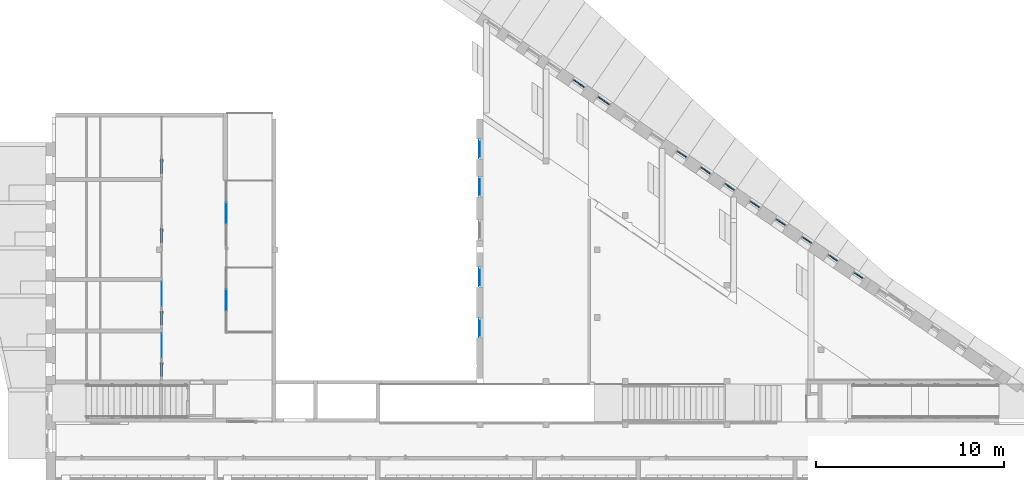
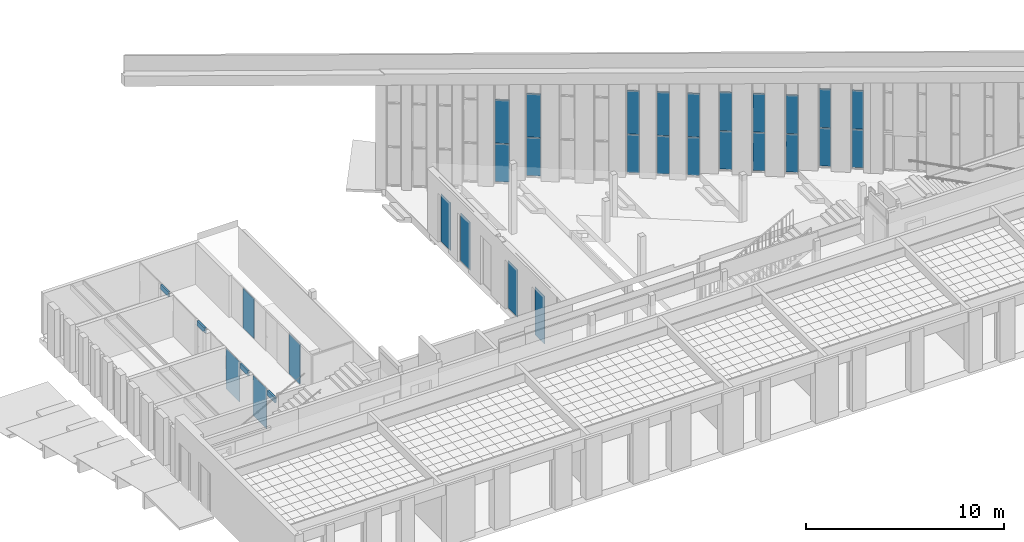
# One storey, part 21 of 79: 32 plates, 19 elements without a shape of their own.
"""IFC2X3 building model written with IfcOpenShell, lengths in millimetres."""

from ifc_helpers import new_model, entity, si_unit, converted_unit, derived_unit, money_unit, direction, frame, origin_with_axes, place, context, subcontext, project, spatial, faceted_brep, source, transform, mapped, material, material_list, type_object, element, aggregate, save


model = new_model("IFC2X3")

# Units and contexts
model_context = context("Model", 3, precision=0.01, world=origin_with_axes(), true_north=direction((0.0, 1.0)))
body_context = subcontext(model_context, "Body", "Model", "MODEL_VIEW")
ifc_project = project(units=[si_unit("LENGTHUNIT", "METRE", prefix="MILLI"), si_unit("AREAUNIT", "SQUARE_METRE"), si_unit("VOLUMEUNIT", "CUBIC_METRE"), converted_unit("PLANEANGLEUNIT", "DEGREE", entity("IfcPlaneAngleMeasure", 0.0174532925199), si_unit("PLANEANGLEUNIT", "RADIAN"), dimensions=[0, 0, 0, 0, 0, 0, 0]), si_unit("SOLIDANGLEUNIT", "STERADIAN"), money_unit("EUR"), converted_unit("TIMEUNIT", "Year", entity("IfcTimeMeasure", 31556926.0), si_unit("TIMEUNIT", "SECOND"), dimensions=[0, 0, 1, 0, 0, 0, 0]), si_unit("MASSUNIT", "GRAM", prefix="KILO"), si_unit("THERMODYNAMICTEMPERATUREUNIT", "DEGREE_CELSIUS"), si_unit("LUMINOUSINTENSITYUNIT", "LUMEN"), si_unit("ENERGYUNIT", "JOULE", prefix="MEGA"), derived_unit("THERMALCONDUCTANCEUNIT", [(si_unit("POWERUNIT", "WATT"), 1), (si_unit("LENGTHUNIT", "METRE"), -1), (si_unit("THERMODYNAMICTEMPERATUREUNIT", "KELVIN"), -1)]), derived_unit("SPECIFICHEATCAPACITYUNIT", [(si_unit("ENERGYUNIT", "JOULE"), 1), (si_unit("MASSUNIT", "GRAM", prefix="KILO"), -1), (si_unit("THERMODYNAMICTEMPERATUREUNIT", "KELVIN"), -1)]), derived_unit("MASSDENSITYUNIT", [(si_unit("MASSUNIT", "GRAM", prefix="KILO"), 1), (si_unit("VOLUMEUNIT", "CUBIC_METRE"), -1)])], contexts=[model_context])

# Site, building, storey
site_placement = place(None, origin_with_axes())
site = spatial("IfcSite", under=ifc_project, at=site_placement, Name="L.Koidula tn 11b", CompositionType="ELEMENT")
building_placement = place(site_placement, origin_with_axes())
building = spatial("IfcBuilding", under=site, at=building_placement, Name="Rakvere Riigigümnaasium", CompositionType="ELEMENT")
storey_placement = place(building_placement, frame((0.0, 0.0, 3720.0), z_axis=(0.0, 0.0, 1.0), x_axis=(1.0, 0.0, 0.0)))
storey = spatial("IfcBuildingStorey", under=building, at=storey_placement, Name="2.korrus +3,72", CompositionType="ELEMENT", Elevation=3720.0)

# Curtain wall, plate
curtain_wall_type = type_object("IfcCurtainWallType", Name="Curtain Wall Type", PredefinedType="NOTDEFINED")
curtain_wall_1_placement = place(storey_placement, frame((68763.037451, 29315.3232528, -465.000107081), z_axis=(0.0, 0.0, 1.0), x_axis=(1.0, 0.0, 0.0)))
curtain_wall_1 = element("IfcCurtainWall", 1, at=curtain_wall_1_placement, inside=storey, type_object=curtain_wall_type, Name="KLF-06-13")
ifc_material_1 = material(Name="Klaaspakett 3x")
plate_type_1 = type_object("IfcPlateType", Name="Distinct Panel 626 x 2351 x 54", PredefinedType="CURTAIN_PANEL")
shared_shape_1 = source(origin_with_axes(), body_context, "Body", "Brep", [
    faceted_brep([(-682.999957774, 2388.00017106, -27.0), (-682.999957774, 2388.00017106, 27.0), (-57.0000202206, 2388.00017106, 27.0), (-57.0000202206, 2388.00017106, -27.0), (-682.999957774, 37.0000026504, -27.0), (-682.999957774, 37.0000026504, 27.0), (-56.9999486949, 37.0000026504, 27.0), (-56.9999486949, 37.0000026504, -27.0)], [[[0, 1, 2, 3]], [[4, 5, 1, 0]], [[1, 5, 6, 2]], [[3, 2, 6, 7]], [[0, 3, 7, 4]], [[7, 6, 5, 4]]]),
])
plate_1_placement = place(curtain_wall_1_placement, frame((-7.21069994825e-05, 4.94565313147e-05, 1200.00008596), z_axis=(0.0, 0.0, 1.0), x_axis=(-0.824666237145, 0.565619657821, 0.0)))
plate_1 = element("IfcPlate", 2, at=plate_1_placement, type_object=plate_type_1, material=ifc_material_1, Name="KLF-06-13-Klaasid", ObjectType="CURTAIN_PANEL", context=body_context, shape_type="MappedRepresentation", body=[
    mapped(shared_shape_1, transform((369.999973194, 0.0, -1200.00008596), x_axis=(1.0, 0.0, 0.0), y_axis=(0.0, 0.0, 1.0), z_axis=(0.0, -1.0, 0.0))),
])

curtain_wall_2_placement = place(storey_placement, frame((70025.1098687, 28449.7063598, -465.0), z_axis=(0.0, 0.0, 1.0), x_axis=(1.0, 0.0, 0.0)))
curtain_wall_2 = element("IfcCurtainWall", 3, at=curtain_wall_2_placement, inside=storey, type_object=curtain_wall_type, Name="KLF-06-12")
plate_2_placement = place(curtain_wall_2_placement, frame((-9.94032234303e-05, 6.81783944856e-05, 1200.00003242), z_axis=(0.0, 0.0, 1.0), x_axis=(-0.824666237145, 0.565619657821, 0.0)))
plate_2 = element("IfcPlate", 4, at=plate_2_placement, type_object=plate_type_1, material=ifc_material_1, Name="KLF-06-12-Klaasid", ObjectType="CURTAIN_PANEL", context=body_context, shape_type="MappedRepresentation", body=[
    mapped(shared_shape_1, transform((369.99988812, 0.0, -1200.00003242), x_axis=(1.0, 0.0, 0.0), y_axis=(0.0, 0.0, 1.0), z_axis=(0.0, -1.0, 0.0))),
])

curtain_wall_3_placement = place(storey_placement, frame((71295.0958138, 27578.652128, -465.0), z_axis=(0.0, 0.0, 1.0), x_axis=(1.0, 0.0, 0.0)))
curtain_wall_3 = element("IfcCurtainWall", 5, at=curtain_wall_3_placement, inside=storey, type_object=curtain_wall_type, Name="KLF-06-11")
plate_3_placement = place(curtain_wall_3_placement, frame((-6.52157865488e-05, 4.47300152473e-05, 1200.00003242), z_axis=(0.0, 0.0, 1.0), x_axis=(-0.824666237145, 0.565619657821, 0.0)))
plate_3 = element("IfcPlate", 6, at=plate_3_placement, type_object=plate_type_1, material=ifc_material_1, Name="KLF-06-11-Klaasid", ObjectType="CURTAIN_PANEL", context=body_context, shape_type="MappedRepresentation", body=[
    mapped(shared_shape_1, transform((369.999855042, 0.0, -1200.00003242), x_axis=(1.0, 0.0, 0.0), y_axis=(0.0, 0.0, 1.0), z_axis=(0.0, -1.0, 0.0))),
])

curtain_wall_4_placement = place(storey_placement, frame((72639.3001548, 26656.6898396, 0.0), z_axis=(0.0, 0.0, 1.0), x_axis=(1.0, 0.0, 0.0)))
curtain_wall_4 = element("IfcCurtainWall", 7, at=curtain_wall_4_placement, inside=storey, type_object=curtain_wall_type, Name="KLF-06-10")
plate_4_placement = place(curtain_wall_4_placement, frame((-1.82420478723e-05, 1.25118084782e-05, 1200.00003242), z_axis=(0.0, 0.0, 1.0), x_axis=(-0.824666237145, 0.565619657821, 0.0)))
plate_4 = element("IfcPlate", 8, at=plate_4_placement, type_object=plate_type_1, material=ifc_material_1, Name="KLF-06-10-Klaasid", ObjectType="CURTAIN_PANEL", context=body_context, shape_type="MappedRepresentation", body=[
    mapped(shared_shape_1, transform((369.999855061, 0.0, -1200.00003242), x_axis=(1.0, 0.0, 0.0), y_axis=(0.0, 0.0, 1.0), z_axis=(0.0, -1.0, 0.0))),
])

curtain_wall_5_placement = place(storey_placement, frame((74020.6159263, 25709.2765329, 0.0), z_axis=(0.0, 0.0, 1.0), x_axis=(1.0, 0.0, 0.0)))
curtain_wall_5 = element("IfcCurtainWall", 9, at=curtain_wall_5_placement, inside=storey, type_object=curtain_wall_type, Name="KLF-06-09")
plate_5_placement = place(curtain_wall_5_placement, frame((2.20918963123e-05, -1.51523309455e-05, 1200.00003242), z_axis=(0.0, 0.0, 1.0), x_axis=(-0.824666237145, 0.565619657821, 0.0)))
plate_5 = element("IfcPlate", 10, at=plate_5_placement, type_object=plate_type_1, material=ifc_material_1, Name="KLF-06-09-Klaasid", ObjectType="CURTAIN_PANEL", context=body_context, shape_type="MappedRepresentation", body=[
    mapped(shared_shape_1, transform((369.999961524, 0.0, -1200.00003242), x_axis=(1.0, 0.0, 0.0), y_axis=(0.0, 0.0, 1.0), z_axis=(0.0, -1.0, 0.0))),
])

curtain_wall_6_placement = place(storey_placement, frame((75401.9316286, 24761.8632578, 0.0), z_axis=(0.0, 0.0, 1.0), x_axis=(1.0, 0.0, 0.0)))
curtain_wall_6 = element("IfcCurtainWall", 11, at=curtain_wall_6_placement, inside=storey, type_object=curtain_wall_type, Name="KLF-06-08")
plate_6_placement = place(curtain_wall_6_placement, frame((0.0, 0.0, 1200.00003242), z_axis=(0.0, 0.0, 1.0), x_axis=(-0.824666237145, 0.565619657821, 0.0)))
plate_6 = element("IfcPlate", 12, at=plate_6_placement, type_object=plate_type_1, material=ifc_material_1, Name="KLF-06-08-Klaasid", ObjectType="CURTAIN_PANEL", context=body_context, shape_type="MappedRepresentation", body=[
    mapped(shared_shape_1, transform((369.999929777, 0.0, -1200.00003242), x_axis=(1.0, 0.0, 0.0), y_axis=(0.0, 0.0, 1.0), z_axis=(0.0, -1.0, 0.0))),
])

curtain_wall_7_placement = place(storey_placement, frame((58002.0348101, 27595.6402648, -1405.00005955), z_axis=(0.0, 0.0, 1.0), x_axis=(1.0, 0.0, 0.0)))
curtain_wall_7 = element("IfcCurtainWall", 13, at=curtain_wall_7_placement, inside=storey, type_object=curtain_wall_type, Name="SKLF-20")
plate_type_2 = type_object("IfcPlateType", Name="Distinct Panel 970 x 2940 x 24", PredefinedType="CURTAIN_PANEL")
shared_shape_2 = source(origin_with_axes(), body_context, "Body", "Brep", [
    faceted_brep([(1014.99990264, 2985.00007378, -12.0), (44.9999852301, 2985.00007378, -12.0), (44.9999852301, 2985.00007378, 12.0), (1014.99990264, 2985.00007378, 12.0), (1014.99990264, 44.9999852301, -12.0), (44.9999852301, 44.9999852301, -12.0), (44.9999852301, 44.9999852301, 12.0), (1014.99990264, 44.9999852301, 12.0)], [[[0, 1, 2, 3]], [[0, 4, 5, 1]], [[1, 5, 6, 2]], [[3, 2, 6, 7]], [[4, 0, 3, 7]], [[5, 4, 7, 6]]]),
])
plate_7_placement = place(curtain_wall_7_placement, frame((0.0, 0.0, 1515.0000295), z_axis=(0.0, 0.0, 1.0), x_axis=(0.0, 1.0, 0.0)))
plate_7 = element("IfcPlate", 14, at=plate_7_placement, type_object=plate_type_2, material=ifc_material_1, Name="KLF-06-17-Klaasid", ObjectType="CURTAIN_PANEL", context=body_context, shape_type="MappedRepresentation", body=[
    mapped(shared_shape_2, transform((529.999960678, 0.0, -1515.0000295), x_axis=(-1.0, 0.0, 0.0), y_axis=(0.0, 0.0, 1.0), z_axis=(0.0, 1.0, 0.0))),
])
aggregate(curtain_wall_7, [plate_7])

curtain_wall_8_placement = place(storey_placement, frame((58002.0348101, 29595.4092069, -1405.00005955), z_axis=(0.0, 0.0, 1.0), x_axis=(1.0, 0.0, 0.0)))
curtain_wall_8 = element("IfcCurtainWall", 15, at=curtain_wall_8_placement, inside=storey, type_object=curtain_wall_type, Name="SKLF-19")
plate_8_placement = place(curtain_wall_8_placement, frame((0.0, 0.0, 1515.0000295), z_axis=(0.0, 0.0, 1.0), x_axis=(0.0, 1.0, 0.0)))
plate_8 = element("IfcPlate", 16, at=plate_8_placement, type_object=plate_type_2, material=ifc_material_1, Name="KLF-06-17-Klaasid", ObjectType="CURTAIN_PANEL", context=body_context, shape_type="MappedRepresentation", body=[
    mapped(shared_shape_2, transform((529.999989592, 0.0, -1515.0000295), x_axis=(-1.0, 0.0, 0.0), y_axis=(0.0, 0.0, 1.0), z_axis=(0.0, 1.0, 0.0))),
])
aggregate(curtain_wall_8, [plate_8])

curtain_wall_9_placement = place(storey_placement, frame((58002.0348101, 22795.9964925, -1405.00005955), z_axis=(0.0, 0.0, 1.0), x_axis=(1.0, 0.0, 0.0)))
curtain_wall_9 = element("IfcCurtainWall", 17, at=curtain_wall_9_placement, inside=storey, type_object=curtain_wall_type, Name="SKLF-22")
plate_9_placement = place(curtain_wall_9_placement, frame((0.0, 0.0, 1515.0000295), z_axis=(0.0, 0.0, 1.0), x_axis=(0.0, 1.0, 0.0)))
plate_9 = element("IfcPlate", 18, at=plate_9_placement, type_object=plate_type_2, material=ifc_material_1, Name="KLF-06-17-Klaasid", ObjectType="CURTAIN_PANEL", context=body_context, shape_type="MappedRepresentation", body=[
    mapped(shared_shape_2, transform((529.99994916, 0.0, -1515.0000295), x_axis=(-1.0, 0.0, 0.0), y_axis=(0.0, 0.0, 1.0), z_axis=(0.0, 1.0, 0.0))),
])
aggregate(curtain_wall_9, [plate_9])

curtain_wall_10_placement = place(storey_placement, frame((58002.0348101, 20096.1456632, -1405.00005955), z_axis=(0.0, 0.0, 1.0), x_axis=(1.0, 0.0, 0.0)))
curtain_wall_10 = element("IfcCurtainWall", 19, at=curtain_wall_10_placement, inside=storey, type_object=curtain_wall_type, Name="SKLF-23")
plate_10_placement = place(curtain_wall_10_placement, frame((0.0, 0.0, 1515.0000295), z_axis=(0.0, 0.0, 1.0), x_axis=(0.0, 1.0, 0.0)))
plate_10 = element("IfcPlate", 20, at=plate_10_placement, type_object=plate_type_2, material=ifc_material_1, Name="KLF-06-17-Klaasid", ObjectType="CURTAIN_PANEL", context=body_context, shape_type="MappedRepresentation", body=[
    mapped(shared_shape_2, transform((529.99994916, 0.0, -1515.0000295), x_axis=(-1.0, 0.0, 0.0), y_axis=(0.0, 0.0, 1.0), z_axis=(0.0, 1.0, 0.0))),
])
aggregate(curtain_wall_10, [plate_10])

curtain_wall_11_placement = place(storey_placement, frame((41130.915445, 17840.4555248, 2.4134225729e-05), z_axis=(0.0, 0.0, 1.0), x_axis=(1.0, 0.0, 0.0)))
curtain_wall_11 = element("IfcCurtainWall", 21, at=curtain_wall_11_placement, inside=storey, type_object=curtain_wall_type, Name="SKLF-12")
ifc_material_2 = material(Name="MDF")
ifc_material_3 = material(Name="Kipsplaat")
ifc_material_4 = material(Name="Klaasvill")
ifc_material_list = material_list([ifc_material_2, ifc_material_3, ifc_material_4])
plate_type_3 = type_object("IfcPlateType", Name="Siseklaasfassaad - Ukse kohal paneel 865 x 308 x 0", PredefinedType="CURTAIN_PANEL")
shared_shape_3 = source(origin_with_axes(), body_context, "Body", "Brep", [
    faceted_brep([(-985.000001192, 307.999996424, -29.0), (-985.000001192, 307.999996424, -21.0), (-194.859688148, 307.999996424, -21.0), (-194.859688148, 307.999996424, -29.0), (-985.000001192, 0.0, -29.0), (-985.000001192, 0.0, -21.0), (-194.859688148, 0.0, -21.0), (-194.859688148, 0.0, -29.0)], [[[0, 1, 2, 3]], [[4, 5, 1, 0]], [[1, 5, 6, 2]], [[3, 2, 6, 7]], [[0, 3, 7, 4]], [[7, 6, 5, 4]]]),
    faceted_brep([(-985.000001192, 307.999996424, -15.0), (-985.000001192, 307.999996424, -2.5), (-194.859688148, 307.999996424, -2.5), (-194.859688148, 307.999996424, -15.0), (-985.000001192, 0.0, -15.0), (-985.000001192, 0.0, -2.5), (-194.859688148, 0.0, -2.5), (-194.859688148, 0.0, -15.0)], [[[0, 1, 2, 3]], [[4, 5, 1, 0]], [[1, 5, 6, 2]], [[3, 2, 6, 7]], [[0, 3, 7, 4]], [[7, 6, 5, 4]]]),
    faceted_brep([(-985.000001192, 307.999996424, -2.5), (-985.000001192, 307.999996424, 10.0), (-194.859688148, 307.999996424, 10.0), (-194.859688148, 307.999996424, -2.5), (-985.000001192, 0.0, -2.5), (-985.000001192, 0.0, 10.0), (-194.859688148, 0.0, 10.0), (-194.859688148, 0.0, -2.5)], [[[0, 1, 2, 3]], [[4, 5, 1, 0]], [[1, 5, 6, 2]], [[3, 2, 6, 7]], [[0, 3, 7, 4]], [[7, 6, 5, 4]]]),
    faceted_brep([(-985.000001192, 307.999996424, 10.0), (-985.000001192, 307.999996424, 55.0), (-194.859688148, 307.999996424, 55.0), (-194.859688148, 307.999996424, 10.0), (-985.000001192, 0.0, 10.0), (-985.000001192, 0.0, 55.0), (-194.859688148, 0.0, 55.0), (-194.859688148, 0.0, 10.0)], [[[0, 1, 2, 3]], [[4, 5, 1, 0]], [[1, 5, 6, 2]], [[3, 2, 6, 7]], [[0, 3, 7, 4]], [[7, 6, 5, 4]]]),
    faceted_brep([(-985.000001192, 307.999996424, 55.0), (-985.000001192, 307.999996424, 63.0), (-194.859688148, 307.999996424, 63.0), (-194.859688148, 307.999996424, 55.0), (-985.000001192, 0.0, 55.0), (-985.000001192, 0.0, 63.0), (-194.859688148, 0.0, 63.0), (-194.859688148, 0.0, 55.0)], [[[0, 1, 2, 3]], [[4, 5, 1, 0]], [[1, 5, 6, 2]], [[3, 2, 6, 7]], [[0, 3, 7, 4]], [[7, 6, 5, 4]]]),
])
plate_11_placement = place(curtain_wall_11_placement, frame((0.0, 0.0, 2353.99997587), z_axis=(0.0, 0.0, 1.0), x_axis=(-4.21371043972e-05, -0.999999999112, 0.0)))
plate_11 = element("IfcPlate", 22, at=plate_11_placement, type_object=plate_type_3, material=ifc_material_list, Name="PV-SKLF-31-klaas", ObjectType="CURTAIN_PANEL", context=body_context, shape_type="MappedRepresentation", body=[
    mapped(shared_shape_3, transform((520.0, 0.0, -154.0), x_axis=(1.0, 0.0, 0.0), y_axis=(0.0, 0.0, 1.0), z_axis=(0.0, -1.0, 0.0))),
])

curtain_wall_12_placement = place(storey_placement, frame((41130.9157939, 20570.4555219, 2.41342252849e-05), z_axis=(0.0, 0.0, 1.0), x_axis=(1.0, 0.0, 0.0)))
curtain_wall_12 = element("IfcCurtainWall", 23, at=curtain_wall_12_placement, inside=storey, type_object=curtain_wall_type, Name="SKLF-13")
plate_12_placement = place(curtain_wall_12_placement, frame((0.0, 0.0, 2353.99997587), z_axis=(0.0, 0.0, 1.0), x_axis=(-4.28079159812e-05, -0.999999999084, 0.0)))
plate_12 = element("IfcPlate", 24, at=plate_12_placement, type_object=plate_type_3, material=ifc_material_list, Name="PV-SKLF-31-klaas", ObjectType="CURTAIN_PANEL", context=body_context, shape_type="MappedRepresentation", body=[
    mapped(shared_shape_3, transform((520.0, 0.0, -154.0), x_axis=(1.0, 0.0, 0.0), y_axis=(0.0, 0.0, 1.0), z_axis=(0.0, -1.0, 0.0))),
])

curtain_wall_13_placement = place(storey_placement, frame((41130.915445, 24920.4555468, 0.0), z_axis=(0.0, 0.0, 1.0), x_axis=(1.0, 0.0, 0.0)))
curtain_wall_13 = element("IfcCurtainWall", 25, at=curtain_wall_13_placement, inside=storey, type_object=curtain_wall_type, Name="SKLF-15")
plate_13_placement = place(curtain_wall_13_placement, frame((0.0, 0.0, 2354.0), z_axis=(0.0, 0.0, 1.0), x_axis=(-4.21371043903e-05, -0.999999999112, 0.0)))
plate_13 = element("IfcPlate", 26, at=plate_13_placement, type_object=plate_type_3, material=ifc_material_list, Name="PV-SKLF-31-klaas", ObjectType="CURTAIN_PANEL", context=body_context, shape_type="MappedRepresentation", body=[
    mapped(shared_shape_3, transform((520.0, 0.0, -154.0), x_axis=(1.0, 0.0, 0.0), y_axis=(0.0, 0.0, 1.0), z_axis=(0.0, -1.0, 0.0))),
])
aggregate(curtain_wall_13, [plate_13])

curtain_wall_14_placement = place(storey_placement, frame((41130.915445, 28609.9592257, 0.0), z_axis=(0.0, 0.0, 1.0), x_axis=(1.0, 0.0, 0.0)))
curtain_wall_14 = element("IfcCurtainWall", 27, at=curtain_wall_14_placement, inside=storey, type_object=curtain_wall_type, Name="SKLF-16")
plate_14_placement = place(curtain_wall_14_placement, frame((0.0, 0.0, 2354.0), z_axis=(0.0, 0.0, 1.0), x_axis=(-4.21371043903e-05, -0.999999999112, 0.0)))
plate_14 = element("IfcPlate", 28, at=plate_14_placement, type_object=plate_type_3, material=ifc_material_list, Name="PV-SKLF-39-klaas", ObjectType="CURTAIN_PANEL", context=body_context, shape_type="MappedRepresentation", body=[
    mapped(shared_shape_3, transform((520.0, 0.0, -154.0), x_axis=(1.0, 0.0, 0.0), y_axis=(0.0, 0.0, 1.0), z_axis=(0.0, -1.0, 0.0))),
])
aggregate(curtain_wall_14, [plate_14])

# Plate
plate_type_4 = type_object("IfcPlateType", Name="Distinct Panel 626 x 2676 x 54", PredefinedType="CURTAIN_PANEL")
shared_shape_4 = source(origin_with_axes(), body_context, "Body", "Brep", [
    faceted_brep([(-683.000085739, 2688.00001341, -27.0), (-683.000085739, 2688.00001341, 27.0), (-57.0000276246, 2688.00001341, 27.0), (-57.0000276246, 2688.00001341, -27.0), (-682.99996504, 11.9999865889, -27.0), (-682.99996504, 11.9999865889, 27.0), (-57.0000276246, 11.9999865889, 27.0), (-57.0000276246, 11.9999865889, -27.0)], [[[0, 1, 2, 3]], [[4, 5, 1, 0]], [[1, 5, 6, 2]], [[3, 2, 6, 7]], [[0, 3, 7, 4]], [[7, 6, 5, 4]]]),
])
plate_15_placement = place(curtain_wall_1_placement, frame((-3.02657809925e-05, 2.07586090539e-05, 3750.00017192), z_axis=(0.0, 0.0, 1.0), x_axis=(-0.824666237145, 0.565619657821, 0.0)))
plate_15 = element("IfcPlate", 29, at=plate_15_placement, type_object=plate_type_4, material=ifc_material_1, Name="KLF-06-13-Klaasid", ObjectType="CURTAIN_PANEL", context=body_context, shape_type="MappedRepresentation", body=[
    mapped(shared_shape_4, transform((370.000023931, 0.0, -1350.0), x_axis=(1.0, 0.0, 0.0), y_axis=(0.0, 0.0, 1.0), z_axis=(0.0, -1.0, 0.0))),
])

aggregate(curtain_wall_1, [plate_15, plate_1])

plate_16_placement = place(curtain_wall_2_placement, frame((-2.96681577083e-05, 2.03487147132e-05, 3750.00006484), z_axis=(0.0, 0.0, 1.0), x_axis=(-0.824666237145, 0.565619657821, 0.0)))
plate_16 = element("IfcPlate", 30, at=plate_16_placement, type_object=plate_type_4, material=ifc_material_1, Name="KLF-06-12-Klaasid", ObjectType="CURTAIN_PANEL", context=body_context, shape_type="MappedRepresentation", body=[
    mapped(shared_shape_4, transform((369.999972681, 0.0, -1350.0), x_axis=(1.0, 0.0, 0.0), y_axis=(0.0, 0.0, 1.0), z_axis=(0.0, -1.0, 0.0))),
])

aggregate(curtain_wall_2, [plate_16, plate_2])

plate_17_placement = place(curtain_wall_3_placement, frame((-1.85443269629e-05, 1.27191341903e-05, 3750.00006484), z_axis=(0.0, 0.0, 1.0), x_axis=(-0.824666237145, 0.565619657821, 0.0)))
plate_17 = element("IfcPlate", 31, at=plate_17_placement, type_object=plate_type_4, material=ifc_material_1, Name="KLF-06-11-Klaasid", ObjectType="CURTAIN_PANEL", context=body_context, shape_type="MappedRepresentation", body=[
    mapped(shared_shape_4, transform((369.999911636, 0.0, -1350.0), x_axis=(1.0, 0.0, 0.0), y_axis=(0.0, 0.0, 1.0), z_axis=(0.0, -1.0, 0.0))),
])

aggregate(curtain_wall_3, [plate_17, plate_3])

plate_type_5 = type_object("IfcPlateType", Name="Distinct Panel 626 x 2376 x 54", PredefinedType="CURTAIN_PANEL")
shared_shape_5 = source(origin_with_axes(), body_context, "Body", "Brep", [
    faceted_brep([(-682.999818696, 2388.0, -27.0), (-682.999818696, 2388.0, 27.0), (-57.0000332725, 2388.0, 27.0), (-57.0000332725, 2388.0, -27.0), (-682.99974717, 12.0, -27.0), (-682.99974717, 12.0, 27.0), (-57.0000332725, 12.0, 27.0), (-57.0000332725, 12.0, -27.0)], [[[0, 1, 2, 3]], [[4, 5, 1, 0]], [[1, 5, 6, 2]], [[3, 2, 6, 7]], [[0, 3, 7, 4]], [[7, 6, 5, 4]]]),
])
plate_18_placement = place(curtain_wall_4_placement, frame((2.73823133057e-05, -1.87808986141e-05, 3600.00006484), z_axis=(0.0, 0.0, 1.0), x_axis=(-0.824666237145, 0.565619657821, 0.0)))
plate_18 = element("IfcPlate", 32, at=plate_18_placement, type_object=plate_type_5, material=ifc_material_1, Name="KLF-06-10-Klaasid", ObjectType="CURTAIN_PANEL", context=body_context, shape_type="MappedRepresentation", body=[
    mapped(shared_shape_5, transform((369.999910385, 0.0, -1200.0), x_axis=(1.0, 0.0, 0.0), y_axis=(0.0, 0.0, 1.0), z_axis=(0.0, -1.0, 0.0))),
])

aggregate(curtain_wall_4, [plate_18, plate_4])

plate_19_placement = place(curtain_wall_5_placement, frame((6.28456717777e-05, -4.31044142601e-05, 3600.00006484), z_axis=(0.0, 0.0, 1.0), x_axis=(-0.824666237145, 0.565619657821, 0.0)))
plate_19 = element("IfcPlate", 33, at=plate_19_placement, type_object=plate_type_5, material=ifc_material_1, Name="KLF-06-09-Klaasid", ObjectType="CURTAIN_PANEL", context=body_context, shape_type="MappedRepresentation", body=[
    mapped(shared_shape_5, transform((370.000010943, 0.0, -1200.0), x_axis=(1.0, 0.0, 0.0), y_axis=(0.0, 0.0, 1.0), z_axis=(0.0, -1.0, 0.0))),
])

aggregate(curtain_wall_5, [plate_19, plate_5])

plate_20_placement = place(curtain_wall_6_placement, frame((3.69131214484e-05, -2.53178633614e-05, 3600.00006484), z_axis=(0.0, 0.0, 1.0), x_axis=(-0.824666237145, 0.565619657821, 0.0)))
plate_20 = element("IfcPlate", 34, at=plate_20_placement, type_object=plate_type_5, material=ifc_material_1, Name="KLF-06-08-Klaasid", ObjectType="CURTAIN_PANEL", context=body_context, shape_type="MappedRepresentation", body=[
    mapped(shared_shape_5, transform((369.999974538, 0.0, -1200.0), x_axis=(1.0, 0.0, 0.0), y_axis=(0.0, 0.0, 1.0), z_axis=(0.0, -1.0, 0.0))),
])

aggregate(curtain_wall_6, [plate_6, plate_20])

# Curtain wall, plate
curtain_wall_15_placement = place(storey_placement, frame((63291.7064528, 33067.985779, -1395.00012232), z_axis=(0.0, 0.0, 1.0), x_axis=(1.0, 0.0, 0.0)))
curtain_wall_15 = element("IfcCurtainWall", 35, at=curtain_wall_15_placement, inside=storey, type_object=curtain_wall_type, Name="KLF-06-17")
plate_type_6 = type_object("IfcPlateType", Name="Distinct Panel 726 x 2676 x 54", PredefinedType="CURTAIN_PANEL")
shared_shape_6 = source(origin_with_axes(), body_context, "Body", "Brep", [
    faceted_brep([(-782.999908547, 2688.00001341, -27.0), (-782.999908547, 2688.00001341, 27.0), (-56.9999756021, 2688.00001341, 27.0), (-56.9999756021, 2688.00001341, -27.0), (-782.999787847, 11.9999865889, -27.0), (-782.999787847, 11.9999865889, 27.0), (-56.9999756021, 11.9999865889, 27.0), (-56.9999756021, 11.9999865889, -27.0)], [[[0, 1, 2, 3]], [[4, 5, 1, 0]], [[1, 5, 6, 2]], [[3, 2, 6, 7]], [[0, 3, 7, 4]], [[7, 6, 5, 4]]]),
])
plate_21_placement = place(curtain_wall_15_placement, frame((-1.3146760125e-05, 9.01706442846e-06, 3750.00020418), z_axis=(0.0, 0.0, 1.0), x_axis=(-0.824666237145, 0.565619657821, 0.0)))
plate_21 = element("IfcPlate", 36, at=plate_21_placement, type_object=plate_type_6, material=ifc_material_1, Name="KLF-06-17-Klaasid", ObjectType="CURTAIN_PANEL", context=body_context, shape_type="MappedRepresentation", body=[
    mapped(shared_shape_6, transform((419.999914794, 0.0, -1350.0), x_axis=(1.0, 0.0, 0.0), y_axis=(0.0, 0.0, 1.0), z_axis=(0.0, -1.0, 0.0))),
])

curtain_wall_16_placement = place(storey_placement, frame((64611.1746594, 32162.9974944, -930.000096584), z_axis=(0.0, 0.0, 1.0), x_axis=(1.0, 0.0, 0.0)))
curtain_wall_16 = element("IfcCurtainWall", 37, at=curtain_wall_16_placement, inside=storey, type_object=curtain_wall_type, Name="KLF-06-16")
plate_22_placement = place(curtain_wall_16_placement, frame((-1.05665520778e-05, 7.24735826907e-06, 3750.00012171), z_axis=(0.0, 0.0, 1.0), x_axis=(-0.824666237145, 0.565619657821, 0.0)))
plate_22 = element("IfcPlate", 38, at=plate_22_placement, type_object=plate_type_6, material=ifc_material_1, Name="KLF-06-16-Klaasid", ObjectType="CURTAIN_PANEL", context=body_context, shape_type="MappedRepresentation", body=[
    mapped(shared_shape_6, transform((419.999960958, 0.0, -1350.0), x_axis=(1.0, 0.0, 0.0), y_axis=(0.0, 0.0, 1.0), z_axis=(0.0, -1.0, 0.0))),
])

# Plate
plate_type_7 = type_object("IfcPlateType", Name="Distinct Panel 726 x 2351 x 54", PredefinedType="CURTAIN_PANEL")
shared_shape_7 = source(origin_with_axes(), body_context, "Body", "Brep", [
    faceted_brep([(-782.999794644, 2388.00020316, -27.0), (-782.999794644, 2388.00020316, 27.0), (-56.9999832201, 2388.00020316, 27.0), (-56.9999832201, 2388.00020316, -27.0), (-782.999794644, 37.0000031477, -27.0), (-782.999794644, 37.0000031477, 27.0), (-56.9999832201, 37.0000031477, 27.0), (-56.9999832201, 37.0000031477, -27.0)], [[[0, 1, 2, 3]], [[4, 5, 1, 0]], [[1, 5, 6, 2]], [[3, 2, 6, 7]], [[0, 3, 7, 4]], [[7, 6, 5, 4]]]),
])
plate_23_placement = place(curtain_wall_15_placement, frame((-3.63665648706e-05, 2.49429987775e-05, 1200.00010209), z_axis=(0.0, 0.0, 1.0), x_axis=(-0.824666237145, 0.565619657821, 0.0)))
plate_23 = element("IfcPlate", 39, at=plate_23_placement, type_object=plate_type_7, material=ifc_material_1, Name="KLF-06-17-Klaasid", ObjectType="CURTAIN_PANEL", context=body_context, shape_type="MappedRepresentation", body=[
    mapped(shared_shape_7, transform((419.999886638, 0.0, -1200.00010209), x_axis=(1.0, 0.0, 0.0), y_axis=(0.0, 0.0, 1.0), z_axis=(0.0, -1.0, 0.0))),
])

aggregate(curtain_wall_15, [plate_21, plate_23])

plate_24_placement = place(curtain_wall_16_placement, frame((-3.95580883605e-05, 2.71319962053e-05, 1200.00006086), z_axis=(0.0, 0.0, 1.0), x_axis=(-0.824666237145, 0.565619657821, 0.0)))
plate_24 = element("IfcPlate", 40, at=plate_24_placement, type_object=plate_type_7, material=ifc_material_1, Name="KLF-06-16-Klaasid", ObjectType="CURTAIN_PANEL", context=body_context, shape_type="MappedRepresentation", body=[
    mapped(shared_shape_7, transform((419.999925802, 0.0, -1200.00006086), x_axis=(1.0, 0.0, 0.0), y_axis=(0.0, 0.0, 1.0), z_axis=(0.0, -1.0, 0.0))),
])

aggregate(curtain_wall_16, [plate_22, plate_24])

# Curtain wall, plate
curtain_wall_17_placement = place(storey_placement, frame((76782.8909829, 23814.6943938, 465.0), z_axis=(0.0, 0.0, 1.0), x_axis=(1.0, 0.0, 0.0)))
curtain_wall_17 = element("IfcCurtainWall", 41, at=curtain_wall_17_placement, inside=storey, type_object=curtain_wall_type, Name="KLF-06-07")
plate_type_8 = type_object("IfcPlateType", Name="Distinct Panel 576 x 2376 x 54", PredefinedType="CURTAIN_PANEL")
shared_shape_8 = source(origin_with_axes(), body_context, "Body", "Brep", [
    faceted_brep([(-633.000470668, 2388.0, -27.0), (-633.000470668, 2388.0, 27.0), (-57.0000772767, 2388.0, 27.0), (-57.0000772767, 2388.0, -27.0), (-633.00011304, 12.0, -27.0), (-633.00011304, 12.0, 27.0), (-57.0000772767, 12.0, 27.0), (-57.0000772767, 12.0, -27.0)], [[[0, 1, 2, 3]], [[4, 5, 1, 0]], [[1, 5, 6, 2]], [[3, 2, 6, 7]], [[0, 3, 7, 4]], [[7, 6, 5, 4]]]),
])
plate_25_placement = place(curtain_wall_17_placement, frame((0.0, 0.0, 3600.00006484), z_axis=(0.0, 0.0, 1.0), x_axis=(-0.824666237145, 0.565619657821, 0.0)))
plate_25 = element("IfcPlate", 42, at=plate_25_placement, type_object=plate_type_8, material=ifc_material_1, Name="KLF-06-07-Klaasid", ObjectType="CURTAIN_PANEL", context=body_context, shape_type="MappedRepresentation", body=[
    mapped(shared_shape_8, transform((345.000189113, 0.0, -1200.0), x_axis=(1.0, 0.0, 0.0), y_axis=(0.0, 0.0, 1.0), z_axis=(0.0, -1.0, 0.0))),
])

curtain_wall_18_placement = place(storey_placement, frame((78143.5902424, 22881.4219802, 465.0), z_axis=(0.0, 0.0, 1.0), x_axis=(1.0, 0.0, 0.0)))
curtain_wall_18 = element("IfcCurtainWall", 43, at=curtain_wall_18_placement, inside=storey, type_object=curtain_wall_type, Name="KLF-06-06")
plate_26_placement = place(curtain_wall_18_placement, frame((0.0, 0.0, 3600.00006484), z_axis=(0.0, 0.0, 1.0), x_axis=(-0.824666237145, 0.565619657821, 0.0)))
plate_26 = element("IfcPlate", 44, at=plate_26_placement, type_object=plate_type_8, material=ifc_material_1, Name="KLF-06-06-Klaasid", ObjectType="CURTAIN_PANEL", context=body_context, shape_type="MappedRepresentation", body=[
    mapped(shared_shape_8, transform((345.00014068, 0.0, -1200.0), x_axis=(1.0, 0.0, 0.0), y_axis=(0.0, 0.0, 1.0), z_axis=(0.0, -1.0, 0.0))),
])

# Plate
plate_type_9 = type_object("IfcPlateType", Name="Distinct Panel 576 x 2351 x 54", PredefinedType="CURTAIN_PANEL")
shared_shape_9 = source(origin_with_axes(), body_context, "Body", "Brep", [
    faceted_brep([(-633.000120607, 2388.00006451, -27.0), (-633.000120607, 2388.00006451, 27.0), (-57.0000692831, 2388.00006451, 27.0), (-57.0000692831, 2388.00006451, -27.0), (-632.999798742, 37.0000009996, -27.0), (-632.999798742, 37.0000009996, 27.0), (-56.9999977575, 37.0000009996, 27.0), (-56.9999977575, 37.0000009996, -27.0)], [[[0, 1, 2, 3]], [[4, 5, 1, 0]], [[1, 5, 6, 2]], [[3, 2, 6, 7]], [[0, 3, 7, 4]], [[7, 6, 5, 4]]]),
])
plate_27_placement = place(curtain_wall_17_placement, frame((-0.000159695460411, 0.000109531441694, 1200.00003242), z_axis=(0.0, 0.0, 1.0), x_axis=(-0.824666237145, 0.565619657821, 0.0)))
plate_27 = element("IfcPlate", 45, at=plate_27_placement, type_object=plate_type_9, material=ifc_material_1, Name="KLF-06-07-Klaasid", ObjectType="CURTAIN_PANEL", context=body_context, shape_type="MappedRepresentation", body=[
    mapped(shared_shape_9, transform((344.999995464, 0.0, -1200.00003242), x_axis=(1.0, 0.0, 0.0), y_axis=(0.0, 0.0, 1.0), z_axis=(0.0, -1.0, 0.0))),
])

aggregate(curtain_wall_17, [plate_25, plate_27])

plate_28_placement = place(curtain_wall_18_placement, frame((-0.000133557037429, 9.1603705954e-05, 1200.00003242), z_axis=(0.0, 0.0, 1.0), x_axis=(-0.824666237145, 0.565619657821, 0.0)))
plate_28 = element("IfcPlate", 46, at=plate_28_placement, type_object=plate_type_9, material=ifc_material_1, Name="KLF-06-06-Klaasid", ObjectType="CURTAIN_PANEL", context=body_context, shape_type="MappedRepresentation", body=[
    mapped(shared_shape_9, transform((344.999978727, 0.0, -1200.00003242), x_axis=(1.0, 0.0, 0.0), y_axis=(0.0, 0.0, 1.0), z_axis=(0.0, -1.0, 0.0))),
])

aggregate(curtain_wall_18, [plate_26, plate_28])

ifc_material_5 = material(Name="VKR-05_Klaas")
plate_type_10 = type_object("IfcPlateType", Name="Siseklaasfassaad - Klaas 1374 x 300 x 11", PredefinedType="CURTAIN_PANEL")
shared_shape_10 = source(origin_with_axes(), body_context, "Body", "Brep", [
    faceted_brep([(-1461.4999941, 2499.50000393, -4.0), (-1461.4999941, 2499.50000393, 8.0), (-87.429822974, 2499.50000393, 8.0), (-87.429822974, 2499.50000393, -4.0), (-1461.4999941, 8.49999606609, -4.0), (-1461.4999941, 8.49999606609, 8.0), (-87.429822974, 8.49999606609, 8.0), (-87.429822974, 8.49999606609, -4.0)], [[[0, 1, 2, 3]], [[4, 5, 1, 0]], [[1, 5, 6, 2]], [[3, 2, 6, 7]], [[0, 3, 7, 4]], [[7, 6, 5, 4]]]),
])
plate_29_placement = place(curtain_wall_11_placement, frame((0.0487695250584, 1157.40095842, 1345.14283301), z_axis=(0.0, 0.0, 1.0), x_axis=(-4.21371043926e-05, -0.999999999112, 0.0)))
plate_29 = element("IfcPlate", 47, at=plate_29_placement, type_object=plate_type_10, material=ifc_material_5, Name="PV-SKLF-32-klaas", ObjectType="CURTAIN_PANEL", context=body_context, shape_type="MappedRepresentation", body=[
    mapped(shared_shape_10, transform((637.400959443, 0.0, -1345.14285714), x_axis=(1.0, 0.0, 0.0), y_axis=(0.0, 0.0, 1.0), z_axis=(0.0, -1.0, 0.0))),
])

aggregate(curtain_wall_11, [plate_11, plate_29])

plate_30_placement = place(curtain_wall_12_placement, frame((0.049545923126, 1157.40096064, 1345.14283301), z_axis=(0.0, 0.0, 1.0), x_axis=(-4.28079159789e-05, -0.999999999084, 0.0)))
plate_30 = element("IfcPlate", 48, at=plate_30_placement, type_object=plate_type_10, material=ifc_material_5, Name="PV-SKLF-32-klaas", ObjectType="CURTAIN_PANEL", context=body_context, shape_type="MappedRepresentation", body=[
    mapped(shared_shape_10, transform((637.400961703, 0.0, -1345.14285714), x_axis=(1.0, 0.0, 0.0), y_axis=(0.0, 0.0, 1.0), z_axis=(0.0, -1.0, 0.0))),
])

aggregate(curtain_wall_12, [plate_12, plate_30])

# Curtain wall, plates
curtain_wall_19_placement = place(storey_placement, frame((44568.0000786, 20404.7190306, -3.55964617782e-05), z_axis=(0.0, 0.0, 1.0), x_axis=(1.0, 0.0, 0.0)))
curtain_wall_19 = element("IfcCurtainWall", 49, at=curtain_wall_19_placement, inside=storey, type_object=curtain_wall_type, Name="SKLF-17")
plate_type_11 = type_object("IfcPlateType", Name="Siseklaasfassaad - Klaas-Doubleline30 1122 x 2463 x 17", PredefinedType="CURTAIN_PANEL")
shared_shape_11 = source(origin_with_axes(), body_context, "Body", "Brep", [
    faceted_brep([(1138.99997862, 2478.00001285, -37.0), (17.0000307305, 2478.00001285, -37.0), (17.0000307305, 2478.00001285, -25.0), (1138.99997862, 2478.00001285, -25.0), (1138.99997862, 15.0000227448, -37.0), (17.0000307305, 15.0000227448, -37.0), (17.0000307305, 15.0000227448, -25.0), (1138.99997862, 15.0000227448, -25.0)], [[[0, 1, 2, 3]], [[0, 4, 5, 1]], [[1, 5, 6, 2]], [[3, 2, 6, 7]], [[4, 0, 3, 7]], [[5, 4, 7, 6]]]),
    faceted_brep([(1138.99997862, 2478.00001285, 15.0), (17.0000307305, 2478.00001285, 15.0), (17.0000307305, 2478.00001285, 27.0), (1138.99997862, 2478.00001285, 27.0), (1138.99997862, 15.0000227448, 15.0), (17.0000307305, 15.0000227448, 15.0), (17.0000307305, 15.0000227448, 27.0), (1138.99997862, 15.0000227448, 27.0)], [[[0, 1, 2, 3]], [[0, 4, 5, 1]], [[1, 5, 6, 2]], [[3, 2, 6, 7]], [[4, 0, 3, 7]], [[5, 4, 7, 6]]]),
])
plate_31_placement = place(curtain_wall_19_placement, frame((0.0, 1156.5, 1246.5000178), z_axis=(0.0, 0.0, 1.0), x_axis=(0.0, -1.0, 0.0)))
plate_31 = element("IfcPlate", 50, at=plate_31_placement, type_object=plate_type_11, material=ifc_material_5, Name="Panel-Siseklaasf-103", ObjectType="CURTAIN_PANEL", context=body_context, shape_type="MappedRepresentation", body=[
    mapped(shared_shape_11, transform((578.0, 0.0, -1246.5000178), x_axis=(-1.0, 0.0, 0.0), y_axis=(0.0, 0.0, 1.0), z_axis=(0.0, 1.0, 0.0))),
])
plate_32_placement = place(curtain_wall_19_placement, frame((0.0, 5780.5, 1246.5000178), z_axis=(0.0, 0.0, 1.0), x_axis=(0.0, -1.0, 0.0)))
plate_32 = element("IfcPlate", 51, at=plate_32_placement, type_object=plate_type_11, material=ifc_material_5, Name="Panel-Siseklaasf-130", ObjectType="CURTAIN_PANEL", context=body_context, shape_type="MappedRepresentation", body=[
    mapped(shared_shape_11, transform((578.0, 0.0, -1246.5000178), x_axis=(-1.0, 0.0, 0.0), y_axis=(0.0, 0.0, 1.0), z_axis=(0.0, 1.0, 0.0))),
])
aggregate(curtain_wall_19, [plate_31, plate_32])

save(model, "model.ifc")
